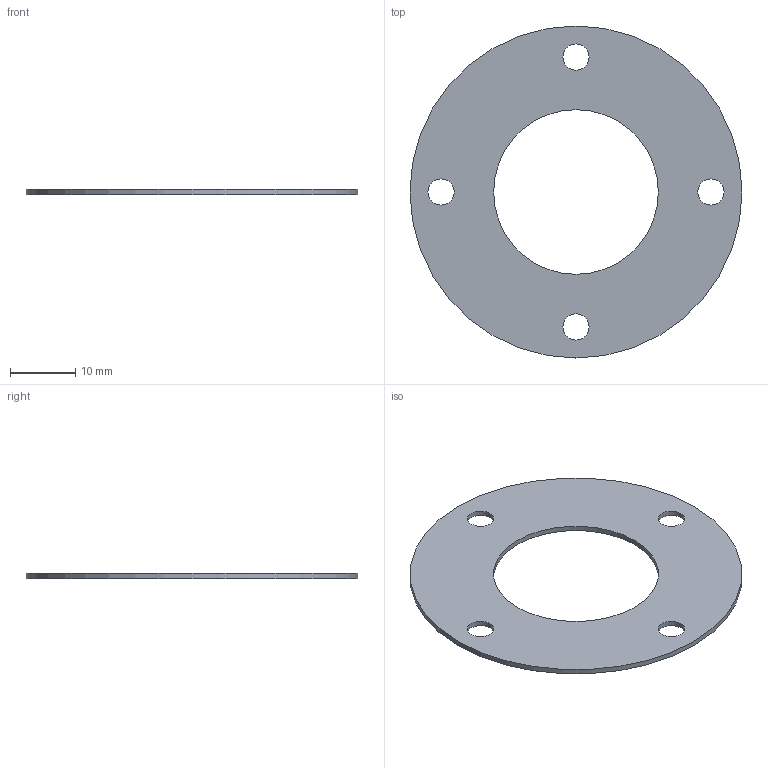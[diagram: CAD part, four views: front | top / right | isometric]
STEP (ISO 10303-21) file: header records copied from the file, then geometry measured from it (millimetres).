
FILE_DESCRIPTION(('STEP AP242 Edition 2','STEP AP242 Edition 2''CAx-IF Rec.Pracs.---Representation and Presentation of Product Manufacturing Information (PMI)---4.0---2014-10-13','STEP AP242 Edition 2''CAx-IF Rec.Pracs.---Representation and Presentation of Product Manufacturing Information (PMI)---4.0---2014-10-13''CAx-IF Rec.Pracs.---3D Tessellated Geometry---0.4---2014-09-14','STEP AP242 Edition 2''CAx-IF Rec.Pracs.---Representation and Presentation of Product Manufacturing Information (PMI)---4.0---2014-10-13''CAx-IF Rec.Pracs.---3D Tessellated Geometry---0.4---2014-09-14''2;1','STEP AP242 Edition 2''CAx-IF Rec.Pracs.---Representation and Presentation of Product Manufacturing Information (PMI)---4.0---2014-10-13''CAx-IF Rec.Pracs.---3D Tessellated Geometry---0.4---2014-09-14''2;1''CAx-IF Rec.Pracs.---User Defined Attributes---1.5---2016-08-15'),'2;1');
FILE_NAME('/vol/tmp/translate-2824624994594445872/Part Studio 1 - Gasket (nl4mprxx).step','2026-03-11T15:09:33',(''),(''),'ST-DEVELOPER v20','ONSHAPE BY PTC INC, 1.211',' ');
FILE_SCHEMA(('AP242_MANAGED_MODEL_BASED_3D_ENGINEERING_MIM_LF { 1 0 10303 442 3 1 4 }'));
Length unit declared in the file: metre
Products named in the file (1): Gasket (nl4mprxx)
Bounding box: 50.8 x 50.8 x 0.8 mm (x, y, z)
Volume: 1182.2 mm3; surface area: 3186.8 mm2
Topology: 1 solids, 1 shells, 8 faces, 18 edges, 12 vertices
Faces by surface type: cylinder 6, plane 2
Full cylindrical faces by diameter (mm): 4 x4, 25.2 x1, 50.8 x1
Entity records: 246 total; most frequent: DIRECTION 42, CARTESIAN_POINT 33, ORIENTED_EDGE 24, EDGE_LOOP 24, FACE_BOUND 24, AXIS2_PLACEMENT_3D 21, EDGE_CURVE 12, VERTEX_POINT 12
